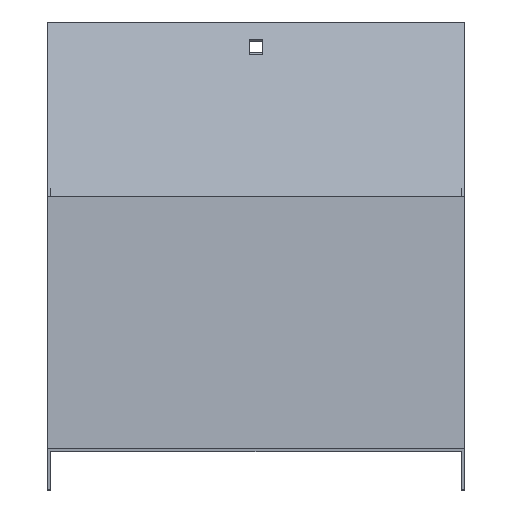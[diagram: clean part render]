
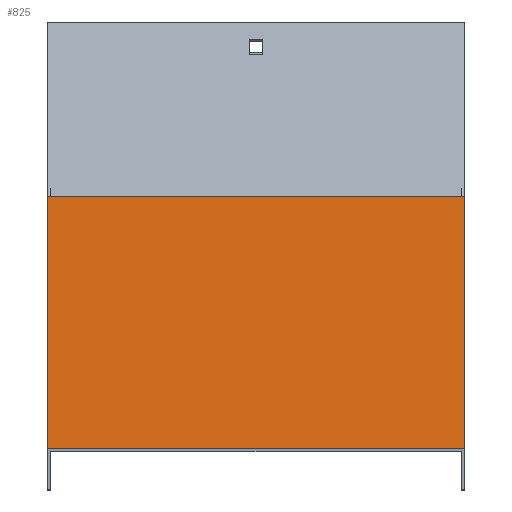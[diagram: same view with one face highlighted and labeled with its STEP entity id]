
A CAD part, top view. The second image highlights one B-rep face of the part: STEP entity #825.
In plain terms, the highlighted planar face has unit normal (0, 0.924, 0.383).
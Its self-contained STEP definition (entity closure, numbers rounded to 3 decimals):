
#10 = VERTEX_POINT ( 'NONE', #758 ) ;
#32 = EDGE_CURVE ( 'NONE', #582, #10, #269, .T. ) ;
#58 = DIRECTION ( 'NONE',  ( -1., 0., 0. ) ) ;
#73 = EDGE_CURVE ( 'NONE', #10, #78, #796, .T. ) ;
#78 = VERTEX_POINT ( 'NONE', #263 ) ;
#116 = CARTESIAN_POINT ( 'NONE',  ( 101.5, 0., -120. ) ) ;
#131 = VECTOR ( 'NONE', #418, 1000. ) ;
#205 = CARTESIAN_POINT ( 'NONE',  ( 101.5, 123.607, -418.413 ) ) ;
#252 = FACE_OUTER_BOUND ( 'NONE', #411, .T. ) ;
#256 = DIRECTION ( 'NONE',  ( 0., 0.383, -0.924 ) ) ;
#258 = ORIENTED_EDGE ( 'NONE', *, *, #73, .T. ) ;
#262 = VECTOR ( 'NONE', #256, 1000. ) ;
#263 = CARTESIAN_POINT ( 'NONE',  ( -101.5, 123.607, -418.413 ) ) ;
#269 = LINE ( 'NONE', #515, #262 ) ;
#294 = VERTEX_POINT ( 'NONE', #347 ) ;
#313 = DIRECTION ( 'NONE',  ( 0., -0.383, 0.924 ) ) ;
#323 = PLANE ( 'NONE',  #653 ) ;
#325 = EDGE_CURVE ( 'NONE', #582, #294, #560, .T. ) ;
#347 = CARTESIAN_POINT ( 'NONE',  ( -101.5, 0., -120. ) ) ;
#358 = ORIENTED_EDGE ( 'NONE', *, *, #643, .F. ) ;
#368 = DIRECTION ( 'NONE',  ( 0., 0.924, 0.383 ) ) ;
#410 = CARTESIAN_POINT ( 'NONE',  ( -101.5, 0., -120. ) ) ;
#411 = EDGE_LOOP ( 'NONE', ( #358, #744, #514, #258 ) ) ;
#418 = DIRECTION ( 'NONE',  ( 0., 0.383, -0.924 ) ) ;
#428 = VECTOR ( 'NONE', #58, 1000. ) ;
#505 = CARTESIAN_POINT ( 'NONE',  ( 101.5, 0., -120. ) ) ;
#514 = ORIENTED_EDGE ( 'NONE', *, *, #32, .T. ) ;
#515 = CARTESIAN_POINT ( 'NONE',  ( 101.5, 0., -120. ) ) ;
#560 = LINE ( 'NONE', #771, #428 ) ;
#582 = VERTEX_POINT ( 'NONE', #116 ) ;
#643 = EDGE_CURVE ( 'NONE', #294, #78, #746, .T. ) ;
#653 = AXIS2_PLACEMENT_3D ( 'NONE', #505, #368, #313 ) ;
#667 = DIRECTION ( 'NONE',  ( -1., 0., 0. ) ) ;
#741 = VECTOR ( 'NONE', #667, 1000. ) ;
#744 = ORIENTED_EDGE ( 'NONE', *, *, #325, .F. ) ;
#746 = LINE ( 'NONE', #410, #131 ) ;
#758 = CARTESIAN_POINT ( 'NONE',  ( 101.5, 123.607, -418.413 ) ) ;
#771 = CARTESIAN_POINT ( 'NONE',  ( 101.5, 0., -120. ) ) ;
#796 = LINE ( 'NONE', #205, #741 ) ;
#825 = ADVANCED_FACE ( 'NONE', ( #252 ), #323, .T. ) ;
